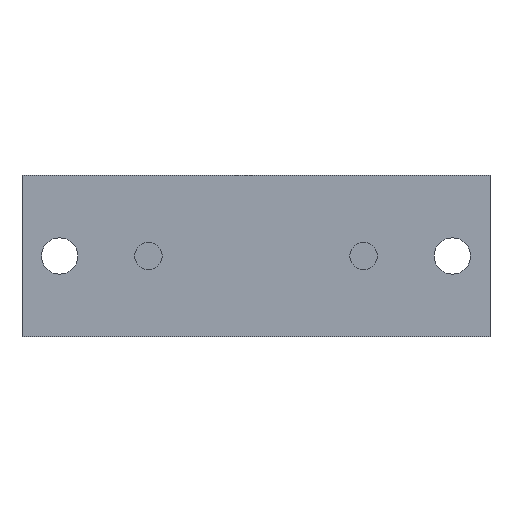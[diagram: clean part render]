
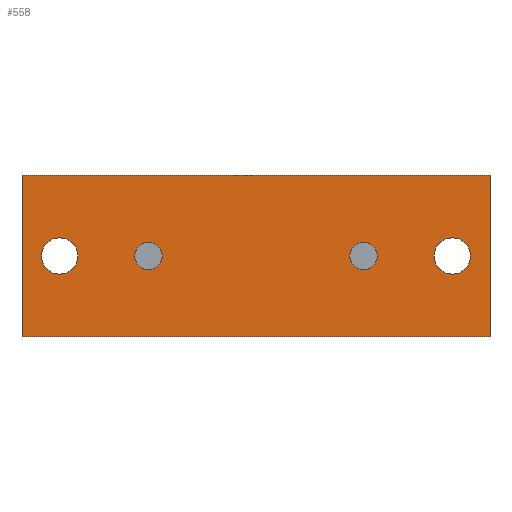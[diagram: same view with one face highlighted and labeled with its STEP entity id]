
A CAD part, front view. The second image highlights one B-rep face of the part: STEP entity #558.
In plain terms, the highlighted planar face has unit normal (0, -1, 0).
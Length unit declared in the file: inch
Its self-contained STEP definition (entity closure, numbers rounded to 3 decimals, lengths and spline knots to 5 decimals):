
#92 = EDGE_CURVE ( 'NONE', #93, #94, #756, .T. ) ;
#93 = VERTEX_POINT ( 'NONE', #752 ) ;
#94 = VERTEX_POINT ( 'NONE', #751 ) ;
#171 = EDGE_CURVE ( 'NONE', #172, #173, #885, .T. ) ;
#172 = VERTEX_POINT ( 'NONE', #881 ) ;
#173 = VERTEX_POINT ( 'NONE', #880 ) ;
#502 = VERTEX_POINT ( 'NONE', #1433 ) ;
#503 = EDGE_CURVE ( 'NONE', #505, #502, #1432, .T. ) ;
#505 = VERTEX_POINT ( 'NONE', #1427 ) ;
#535 = ORIENTED_EDGE ( 'NONE', *, *, #602, .T. ) ;
#536 = ORIENTED_EDGE ( 'NONE', *, *, #537, .F. ) ;
#537 = EDGE_CURVE ( 'NONE', #549, #544, #1443, .T. ) ;
#538 = VERTEX_POINT ( 'NONE', #1507 ) ;
#539 = EDGE_LOOP ( 'NONE', ( #550, #535 ) ) ;
#540 = EDGE_CURVE ( 'NONE', #502, #505, #1506, .T. ) ;
#541 = EDGE_LOOP ( 'NONE', ( #547, #542, #545, #536 ) ) ;
#542 = ORIENTED_EDGE ( 'NONE', *, *, #548, .F. ) ;
#543 = EDGE_CURVE ( 'NONE', #551, #549, #1501, .T. ) ;
#544 = VERTEX_POINT ( 'NONE', #1497 ) ;
#545 = ORIENTED_EDGE ( 'NONE', *, *, #546, .F. ) ;
#546 = EDGE_CURVE ( 'NONE', #544, #538, #1496, .T. ) ;
#547 = ORIENTED_EDGE ( 'NONE', *, *, #543, .F. ) ;
#548 = EDGE_CURVE ( 'NONE', #538, #551, #1492, .T. ) ;
#549 = VERTEX_POINT ( 'NONE', #1488 ) ;
#550 = ORIENTED_EDGE ( 'NONE', *, *, #566, .T. ) ;
#551 = VERTEX_POINT ( 'NONE', #1487 ) ;
#552 = ORIENTED_EDGE ( 'NONE', *, *, #554, .F. ) ;
#553 = EDGE_LOOP ( 'NONE', ( #555, #556 ) ) ;
#554 = EDGE_CURVE ( 'NONE', #173, #172, #1486, .T. ) ;
#555 = ORIENTED_EDGE ( 'NONE', *, *, #503, .T. ) ;
#556 = ORIENTED_EDGE ( 'NONE', *, *, #540, .T. ) ;
#557 = EDGE_LOOP ( 'NONE', ( #560, #552 ) ) ;
#558 = ADVANCED_FACE ( 'NONE', ( #1481, #1480, #1479, #1478, #1477 ), #1542, .T. ) ;
#560 = ORIENTED_EDGE ( 'NONE', *, *, #171, .F. ) ;
#563 = VERTEX_POINT ( 'NONE', #1529 ) ;
#565 = VERTEX_POINT ( 'NONE', #1528 ) ;
#566 = EDGE_CURVE ( 'NONE', #565, #563, #1527, .T. ) ;
#598 = EDGE_LOOP ( 'NONE', ( #599, #603 ) ) ;
#599 = ORIENTED_EDGE ( 'NONE', *, *, #600, .T. ) ;
#600 = EDGE_CURVE ( 'NONE', #94, #93, #1572, .T. ) ;
#602 = EDGE_CURVE ( 'NONE', #563, #565, #1567, .T. ) ;
#603 = ORIENTED_EDGE ( 'NONE', *, *, #92, .T. ) ;
#751 = CARTESIAN_POINT ( 'NONE',  ( 0.9251, 0., -0.49005 ) ) ;
#752 = CARTESIAN_POINT ( 'NONE',  ( 0.9251, 0., -0.69105 ) ) ;
#753 = DIRECTION ( 'NONE',  ( 0., 0., 1. ) ) ;
#754 = DIRECTION ( 'NONE',  ( 0., 1., 0. ) ) ;
#755 = AXIS2_PLACEMENT_3D ( 'NONE', #762, #754, #753 ) ;
#756 = CIRCLE ( 'NONE', #755, 0.1005 ) ;
#762 = CARTESIAN_POINT ( 'NONE',  ( 0.9251, 0., -0.59055 ) ) ;
#880 = CARTESIAN_POINT ( 'NONE',  ( 2.4999, 0., -0.69105 ) ) ;
#881 = CARTESIAN_POINT ( 'NONE',  ( 2.4999, 0., -0.49005 ) ) ;
#882 = DIRECTION ( 'NONE',  ( 0., 0., -1. ) ) ;
#883 = DIRECTION ( 'NONE',  ( 0., -1., 0. ) ) ;
#884 = AXIS2_PLACEMENT_3D ( 'NONE', #889, #883, #882 ) ;
#885 = CIRCLE ( 'NONE', #884, 0.1005 ) ;
#889 = CARTESIAN_POINT ( 'NONE',  ( 2.4999, 0., -0.59055 ) ) ;
#1427 = CARTESIAN_POINT ( 'NONE',  ( 3.1495, 0., -0.72355 ) ) ;
#1428 = DIRECTION ( 'NONE',  ( 0., 0., 1. ) ) ;
#1429 = DIRECTION ( 'NONE',  ( 0., 1., 0. ) ) ;
#1430 = CARTESIAN_POINT ( 'NONE',  ( 3.1495, 0., -0.59055 ) ) ;
#1431 = AXIS2_PLACEMENT_3D ( 'NONE', #1430, #1429, #1428 ) ;
#1432 = CIRCLE ( 'NONE', #1431, 0.133 ) ;
#1433 = CARTESIAN_POINT ( 'NONE',  ( 3.1495, 0., -0.45755 ) ) ;
#1442 = CARTESIAN_POINT ( 'NONE',  ( 0., 0., 0. ) ) ;
#1443 = LINE ( 'NONE', #1442, #1509 ) ;
#1477 = FACE_BOUND ( 'NONE', #598, .T. ) ;
#1478 = FACE_BOUND ( 'NONE', #539, .T. ) ;
#1479 = FACE_OUTER_BOUND ( 'NONE', #541, .T. ) ;
#1480 = FACE_BOUND ( 'NONE', #553, .T. ) ;
#1481 = FACE_BOUND ( 'NONE', #557, .T. ) ;
#1482 = DIRECTION ( 'NONE',  ( 0., 0., -1. ) ) ;
#1483 = DIRECTION ( 'NONE',  ( 0., -1., 0. ) ) ;
#1484 = CARTESIAN_POINT ( 'NONE',  ( 2.4999, 0., -0.59055 ) ) ;
#1485 = AXIS2_PLACEMENT_3D ( 'NONE', #1484, #1483, #1482 ) ;
#1486 = CIRCLE ( 'NONE', #1485, 0.1005 ) ;
#1487 = CARTESIAN_POINT ( 'NONE',  ( 0., 0., -1.1811 ) ) ;
#1488 = CARTESIAN_POINT ( 'NONE',  ( 0., 0., 0. ) ) ;
#1489 = DIRECTION ( 'NONE',  ( -1., 0., 0. ) ) ;
#1490 = VECTOR ( 'NONE', #1489, 39.37008 ) ;
#1491 = CARTESIAN_POINT ( 'NONE',  ( 0., 0., -1.1811 ) ) ;
#1492 = LINE ( 'NONE', #1491, #1490 ) ;
#1493 = DIRECTION ( 'NONE',  ( 0., 0., -1. ) ) ;
#1494 = VECTOR ( 'NONE', #1493, 39.37008 ) ;
#1495 = CARTESIAN_POINT ( 'NONE',  ( 3.425, 0., 0. ) ) ;
#1496 = LINE ( 'NONE', #1495, #1494 ) ;
#1497 = CARTESIAN_POINT ( 'NONE',  ( 3.425, 0., 0. ) ) ;
#1498 = DIRECTION ( 'NONE',  ( 0., 0., 1. ) ) ;
#1499 = VECTOR ( 'NONE', #1498, 39.37008 ) ;
#1500 = CARTESIAN_POINT ( 'NONE',  ( 0., 0., 0. ) ) ;
#1501 = LINE ( 'NONE', #1500, #1499 ) ;
#1502 = DIRECTION ( 'NONE',  ( 0., 0., 1. ) ) ;
#1503 = DIRECTION ( 'NONE',  ( 0., 1., 0. ) ) ;
#1504 = CARTESIAN_POINT ( 'NONE',  ( 3.1495, 0., -0.59055 ) ) ;
#1505 = AXIS2_PLACEMENT_3D ( 'NONE', #1504, #1503, #1502 ) ;
#1506 = CIRCLE ( 'NONE', #1505, 0.133 ) ;
#1507 = CARTESIAN_POINT ( 'NONE',  ( 3.425, 0., -1.1811 ) ) ;
#1508 = DIRECTION ( 'NONE',  ( 1., 0., 0. ) ) ;
#1509 = VECTOR ( 'NONE', #1508, 39.37008 ) ;
#1523 = DIRECTION ( 'NONE',  ( 0., 0., 1. ) ) ;
#1524 = DIRECTION ( 'NONE',  ( 0., 1., 0. ) ) ;
#1525 = CARTESIAN_POINT ( 'NONE',  ( 0.2755, 0., -0.59055 ) ) ;
#1526 = AXIS2_PLACEMENT_3D ( 'NONE', #1525, #1524, #1523 ) ;
#1527 = CIRCLE ( 'NONE', #1526, 0.133 ) ;
#1528 = CARTESIAN_POINT ( 'NONE',  ( 0.2755, 0., -0.72355 ) ) ;
#1529 = CARTESIAN_POINT ( 'NONE',  ( 0.2755, 0., -0.45755 ) ) ;
#1538 = DIRECTION ( 'NONE',  ( 0., 0., -1. ) ) ;
#1539 = DIRECTION ( 'NONE',  ( 0., -1., 0. ) ) ;
#1540 = CARTESIAN_POINT ( 'NONE',  ( 0., 0., -1.1811 ) ) ;
#1541 = AXIS2_PLACEMENT_3D ( 'NONE', #1540, #1539, #1538 ) ;
#1542 = PLANE ( 'NONE',  #1541 ) ;
#1564 = DIRECTION ( 'NONE',  ( 0., 0., 1. ) ) ;
#1565 = DIRECTION ( 'NONE',  ( 0., 1., 0. ) ) ;
#1566 = AXIS2_PLACEMENT_3D ( 'NONE', #1573, #1565, #1564 ) ;
#1567 = CIRCLE ( 'NONE', #1566, 0.133 ) ;
#1568 = DIRECTION ( 'NONE',  ( 0., 0., 1. ) ) ;
#1569 = DIRECTION ( 'NONE',  ( 0., 1., 0. ) ) ;
#1570 = CARTESIAN_POINT ( 'NONE',  ( 0.9251, 0., -0.59055 ) ) ;
#1571 = AXIS2_PLACEMENT_3D ( 'NONE', #1570, #1569, #1568 ) ;
#1572 = CIRCLE ( 'NONE', #1571, 0.1005 ) ;
#1573 = CARTESIAN_POINT ( 'NONE',  ( 0.2755, 0., -0.59055 ) ) ;
